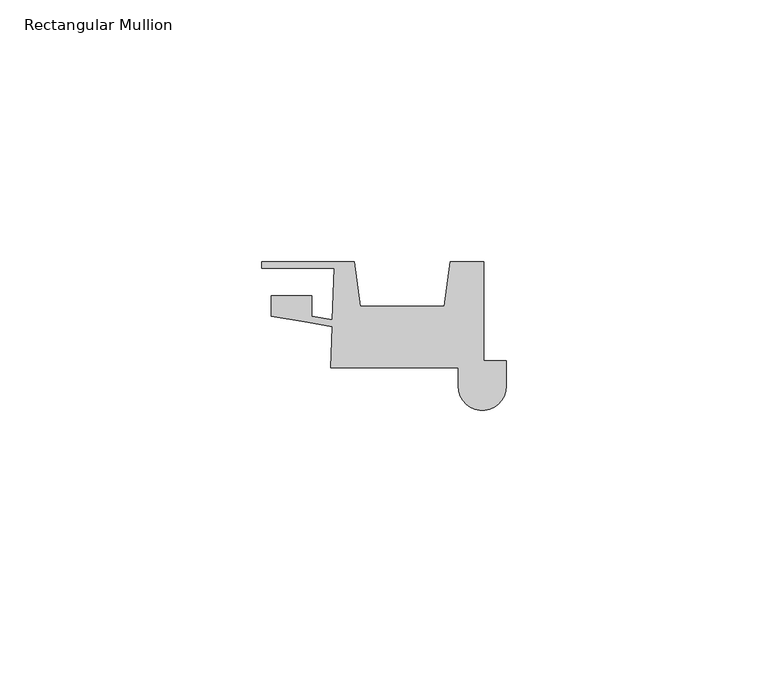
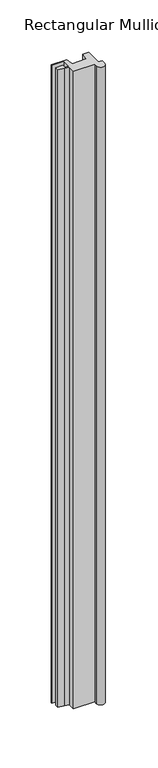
"""IFC4 building model written with IfcOpenShell, lengths in millimetres: member geometry, Rectangular Mullion : QuickPanel-Reveal_Multi-Angle-Outside-Corner-Trim-Left."""

from ifc_helpers import new_model, si_unit, point, frame, frame_2d, origin, place, context, project, spatial, polyline, circle_curve, trimmed, segment, composite_curve, outline, extrude, source, transform, mapped, element, save


def rectangular_mullion_b117a677(model_context):
    return source(origin(), model_context, "Body", "SweptSolid", [
        extrude(outline(composite_curve([segment(polyline([(-33.5174141, -8.095605), (-33.2416678, -0.1992641), (-38.4919487, 0.7008023), (-44.9272813, 1.8040245), (-44.9272813, 5.6493034), (-37.1825082, 5.6493034), (-37.1825082, 1.7648465), (-33.1969393, 1.0815922), (-32.8530122, 10.9303752), (-46.7093657, 10.9303752), (-46.7093657, 12.1803727), (-29.060393, 12.1803727), (-27.8716753, 3.7222065), (-11.8585488, 3.7222065), (-10.6698311, 12.1803727), (-4.2600515, 12.1803727), (-4.2600515, -6.6995181), (0.0, -6.6995181), (0.0, -11.6334034)]), True, "CONTINUOUS"), segment(trimmed(circle_curve(frame_2d((-4.572, -11.6334034)), 4.572), [point((0.0, -11.6334034))], [point((-9.144, -11.6334034))], False, "CARTESIAN"), True, "CONTINUOUS"), segment(polyline([(-9.144, -11.6334034), (-9.144, -8.095605), (-33.5174141, -8.095605)]), True, "CONTINUOUS")], self_intersect=False)), frame((0.0, 0.0, -762.0), z_axis=(0.0, 0.0, 1.0), x_axis=(1.0, 0.0, 0.0)), (0.0, 0.0, 1.0), 762.0),
    ])


if __name__ == "__main__":
    model = new_model("IFC4")
    model_context = context("Model", 3, world=origin())
    ifc_project = project(units=[si_unit("LENGTHUNIT", "METRE", prefix="MILLI")], contexts=[model_context])
    site = spatial("IfcSite", under=ifc_project)
    building = spatial("IfcBuilding", under=site)
    placement = place(None, origin())
    rectangular_mullion_shape = rectangular_mullion_b117a677(model_context)
    element("IfcMember", 1, ObjectType="Rectangular Mullion : QuickPanel-Reveal_Multi-Angle-Outside-Corner-Trim-Left", at=placement, inside=building, context=model_context, shape_type="MappedRepresentation", body=[
        mapped(rectangular_mullion_shape, transform((0.0, 0.0, 0.0), x_axis=(1.0, 0.0, 0.0), y_axis=(0.0, 1.0, 0.0), z_axis=(0.0, 0.0, 1.0))),
    ])
    save(model, "model.ifc")
